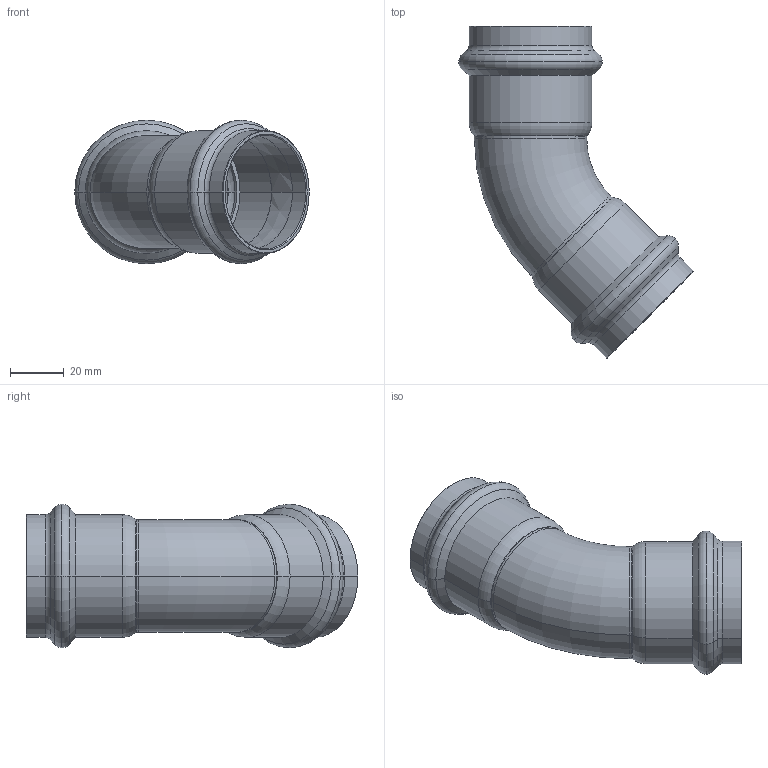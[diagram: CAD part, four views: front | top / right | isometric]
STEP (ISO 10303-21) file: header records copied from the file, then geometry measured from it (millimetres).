
FILE_DESCRIPTION(('CoCreate Modeling STEP Export'),'2;1');
FILE_NAME('8041VW42.stp','2013-01-29T14:33:54',(''),(''),'CoCreate Modeling STEP processor for AP214 (Solid Model)','CoCreate Modeling 17.00A 17-Jun-2010 (C) Parametric Technology GmbH','');
FILE_SCHEMA(('AUTOMOTIVE_DESIGN { 1 0 10303 214 1 1 1 1 }'));
Length unit declared in the file: millimetre
Products named in the file (1): 8041VW42
Bounding box: 87.58 x 123.96 x 53.61 mm (x, y, z)
Volume: 36920.9 mm3; surface area: 36056.9 mm2
Topology: 1 solids, 1 shells, 94 faces, 192 edges, 104 vertices
Faces by surface type: torus 32, cone 28, cylinder 28, plane 6
Entity records: 1992 total; most frequent: ORIENTED_EDGE 384, DIRECTION 322, CARTESIAN_POINT 293, EDGE_CURVE 192, AXIS2_PLACEMENT_3D 133, VERTEX_POINT 104, EDGE_LOOP 100, FACE_OUTER_BOUND 94
